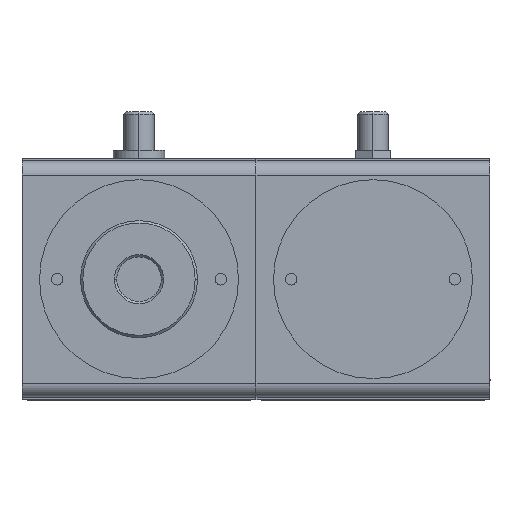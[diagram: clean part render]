
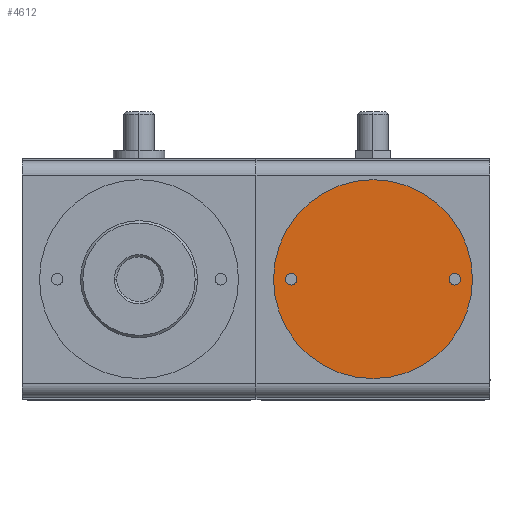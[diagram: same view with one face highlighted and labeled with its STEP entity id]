
A CAD part, front view. The second image highlights one B-rep face of the part: STEP entity #4612.
In plain terms, the highlighted planar face has unit normal (0, -1, 0).
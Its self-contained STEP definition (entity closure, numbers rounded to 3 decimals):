
#1657=CARTESIAN_POINT('',(0.,-51.5,0.));
#1658=DIRECTION('',(0.,-1.,0.));
#1659=DIRECTION('',(0.,0.,1.));
#1660=AXIS2_PLACEMENT_3D('',#1657,#1658,#1659);
#1662=CARTESIAN_POINT('',(0.,-51.5,0.));
#1663=DIRECTION('',(0.,-1.,0.));
#1664=DIRECTION('',(0.,0.,-1.));
#1665=AXIS2_PLACEMENT_3D('',#1662,#1663,#1664);
#1667=CARTESIAN_POINT('',(-35.,-51.5,0.));
#1668=DIRECTION('',(0.,1.,0.));
#1669=DIRECTION('',(0.,0.,1.));
#1670=AXIS2_PLACEMENT_3D('',#1667,#1668,#1669);
#1672=CARTESIAN_POINT('',(-35.,-51.5,0.));
#1673=DIRECTION('',(0.,1.,0.));
#1674=DIRECTION('',(0.,0.,-1.));
#1675=AXIS2_PLACEMENT_3D('',#1672,#1673,#1674);
#1677=CARTESIAN_POINT('',(35.,-51.5,0.));
#1678=DIRECTION('',(0.,1.,0.));
#1679=DIRECTION('',(0.,0.,1.));
#1680=AXIS2_PLACEMENT_3D('',#1677,#1678,#1679);
#1682=CARTESIAN_POINT('',(35.,-51.5,0.));
#1683=DIRECTION('',(0.,1.,0.));
#1684=DIRECTION('',(0.,0.,-1.));
#1685=AXIS2_PLACEMENT_3D('',#1682,#1683,#1684);
#1890=CARTESIAN_POINT('',(0.,-51.5,42.5));
#1891=CARTESIAN_POINT('',(0.,-51.5,-42.5));
#1892=VERTEX_POINT('',#1890);
#1893=VERTEX_POINT('',#1891);
#1894=CARTESIAN_POINT('',(-35.,-51.5,2.5));
#1895=CARTESIAN_POINT('',(-35.,-51.5,-2.5));
#1896=VERTEX_POINT('',#1894);
#1897=VERTEX_POINT('',#1895);
#1898=CARTESIAN_POINT('',(35.,-51.5,2.5));
#1899=CARTESIAN_POINT('',(35.,-51.5,-2.5));
#1900=VERTEX_POINT('',#1898);
#1901=VERTEX_POINT('',#1899);
#4591=CARTESIAN_POINT('',(0.,-51.5,0.));
#4592=DIRECTION('',(0.,-1.,0.));
#4593=DIRECTION('',(0.,0.,1.));
#4594=AXIS2_PLACEMENT_3D('',#4591,#4592,#4593);
#4595=PLANE('',#4594);
#4596=ORIENTED_EDGE('',*,*,#4571,.F.);
#4597=ORIENTED_EDGE('',*,*,#4585,.F.);
#4598=EDGE_LOOP('',(#4596,#4597));
#4599=FACE_OUTER_BOUND('',#4598,.F.);
#4601=ORIENTED_EDGE('',*,*,#4600,.F.);
#4603=ORIENTED_EDGE('',*,*,#4602,.F.);
#4604=EDGE_LOOP('',(#4601,#4603));
#4605=FACE_BOUND('',#4604,.F.);
#4607=ORIENTED_EDGE('',*,*,#4606,.F.);
#4609=ORIENTED_EDGE('',*,*,#4608,.F.);
#4610=EDGE_LOOP('',(#4607,#4609));
#4611=FACE_BOUND('',#4610,.F.);
#4612=ADVANCED_FACE('',(#4599,#4605,#4611),#4595,.T.);
#1661=CIRCLE('',#1660,42.5);
#1666=CIRCLE('',#1665,42.5);
#1671=CIRCLE('',#1670,2.5);
#1676=CIRCLE('',#1675,2.5);
#1681=CIRCLE('',#1680,2.5);
#1686=CIRCLE('',#1685,2.5);
#4571=EDGE_CURVE('',#1892,#1893,#1661,.T.);
#4585=EDGE_CURVE('',#1893,#1892,#1666,.T.);
#4600=EDGE_CURVE('',#1896,#1897,#1671,.T.);
#4602=EDGE_CURVE('',#1897,#1896,#1676,.T.);
#4606=EDGE_CURVE('',#1900,#1901,#1681,.T.);
#4608=EDGE_CURVE('',#1901,#1900,#1686,.T.);
